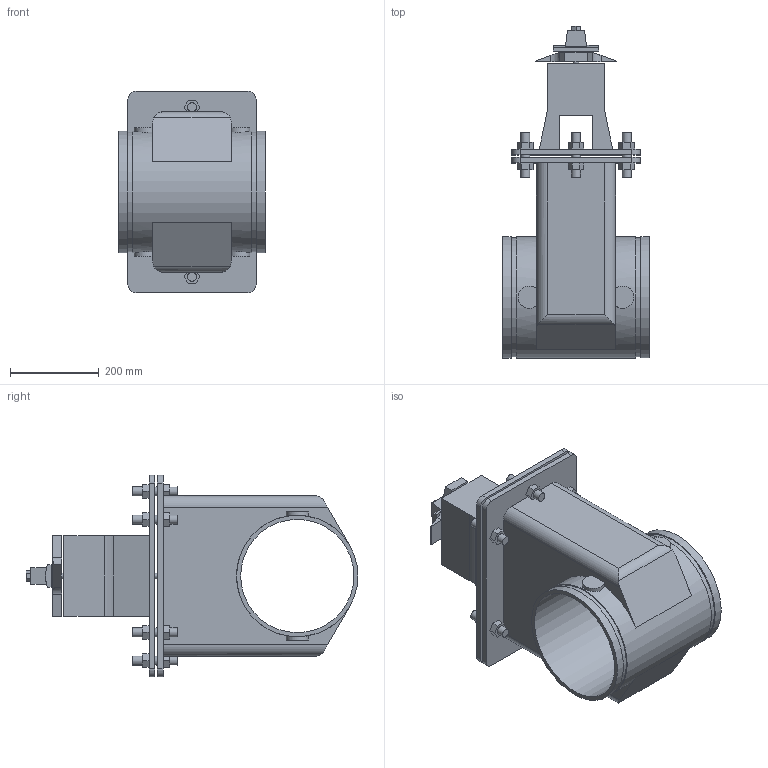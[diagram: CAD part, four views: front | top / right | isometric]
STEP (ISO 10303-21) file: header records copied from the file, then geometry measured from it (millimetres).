
FILE_DESCRIPTION(/* description */ ('VIC GATE VALVE SERIES 772H NRS','CAx-IF Rec.Pracs.---Representation and Presentation of Product Manufacturing Information (PMI)---4.0---2014-10-13'),/* implementation_level */ '2;1');
FILE_NAME(/* name */ 'C:\Users\Vjadhav\AppData\Roaming\Autodesk\ApplicationPlugins\Back Up\Victaulic_FP-FireLock_Valve Gate NRS_Series 772H (OGS)\Victaulic_FP-FireLock_Valve Gate NRS_Series 772H (OGS)_10 (250).stp',/* time_stamp */ '2020-07-20T15:49:41+05:00',/* author */ ('kkamble'),/* organization */ ('Victaulic'),/* preprocessor_version */ 'ST-DEVELOPER v17.2',/* originating_system */ 'Autodesk Inventor 2019',/* authorisation */ '');
FILE_SCHEMA (('AP242_MANAGED_MODEL_BASED_3D_ENGINEERING_MIM_LF { 1 0 10303 442 1 1 4 }'));
Length unit declared in the file: inch
Products named in the file (1): 772H-10.0
Bounding box: 330 x 746.63 x 452.88 mm (x, y, z)
Volume: 25533309.9 mm3; surface area: 1526119.7 mm2
Topology: 1 solids, 1 shells, 219 faces, 557 edges, 375 vertices
Faces by surface type: plane 166, cylinder 53
Full cylindrical faces by diameter (mm): 12.7 x4, 20.32 x16, 254.794 x1, 268.275 x2, 273.05 x3
Entity records: 7197 total; most frequent: CARTESIAN_POINT 1369, DIRECTION 1144, ORIENTED_EDGE 1114, EDGE_CURVE 557, LINE 428, VECTOR 428, VERTEX_POINT 375, AXIS2_PLACEMENT_3D 358
